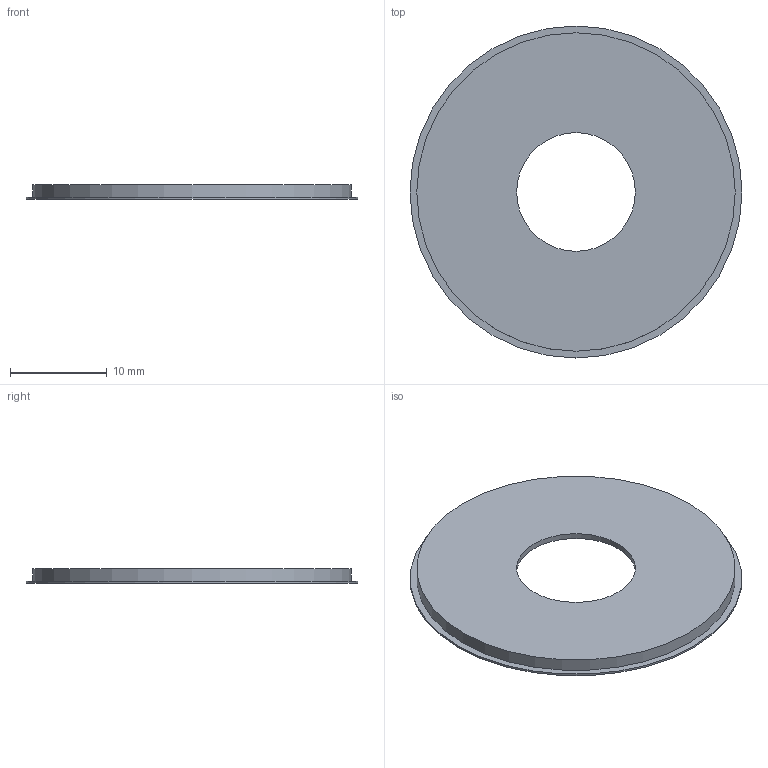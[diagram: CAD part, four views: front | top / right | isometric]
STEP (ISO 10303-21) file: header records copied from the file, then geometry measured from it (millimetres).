
FILE_DESCRIPTION(('FreeCAD Model'),'2;1');
FILE_NAME('Open CASCADE Shape Model','2026-09-21T09:51:53',('FreeCAD'),( 'FreeCAD'),'Open CASCADE STEP processor 7.8','FreeCAD','Unknown');
FILE_SCHEMA(('AUTOMOTIVE_DESIGN { 1 0 10303 214 1 1 1 1 }'));
Length unit declared in the file: millimetre
Products named in the file (1): Open CASCADE STEP translator 7.8 3
Bounding box: 34.4 x 34.4 x 1.52 mm (x, y, z)
Volume: 525.7 mm3; surface area: 1902.7 mm2
Topology: 1 solids, 1 shells, 16 faces, 24 edges, 16 vertices
Faces by surface type: plane 8, cylinder 8
Full cylindrical faces by diameter (mm): 1.7 x4, 12.3 x1, 31.6 x1, 33 x1, 34.4 x1
Entity records: 376 total; most frequent: DIRECTION 72, CARTESIAN_POINT 59, ORIENTED_EDGE 48, AXIS2_PLACEMENT_3D 33, FACE_BOUND 24, EDGE_LOOP 24, EDGE_CURVE 24, ADVANCED_FACE 16
